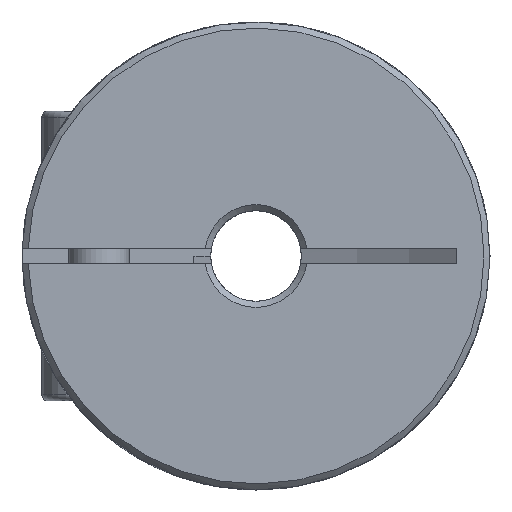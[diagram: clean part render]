
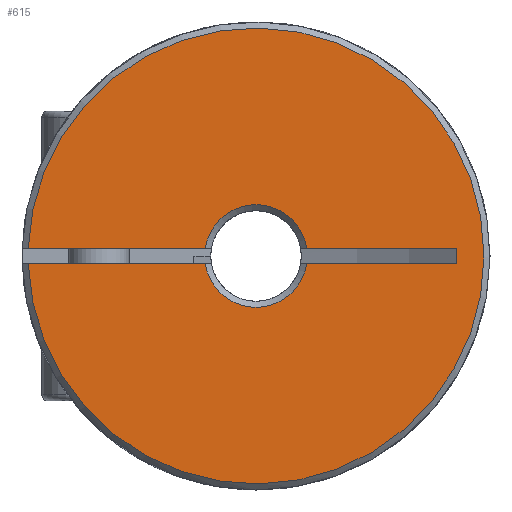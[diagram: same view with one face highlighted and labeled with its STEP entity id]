
A CAD part, left-side view. The second image highlights one B-rep face of the part: STEP entity #615.
In plain terms, the highlighted planar face has unit normal (-1, 0, 0).
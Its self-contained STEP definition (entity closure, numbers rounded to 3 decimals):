
#615 = ADVANCED_FACE( 'NONE', ( #1276 ), #1277, .F. );
#1276 = FACE_OUTER_BOUND( '', #1926, .T. );
#1277 = PLANE( '', #1927 );
#1926 = EDGE_LOOP( '', ( #3216, #3217, #3218, #3219, #3220, #3221, #3222, #3223 ) );
#1927 = AXIS2_PLACEMENT_3D( '', #3224, #3225, #3226 );
#3216 = ORIENTED_EDGE( '', *, *, #3390, .T. );
#3217 = ORIENTED_EDGE( '', *, *, #3788, .T. );
#3218 = ORIENTED_EDGE( '', *, *, #3817, .T. );
#3219 = ORIENTED_EDGE( '', *, *, #3628, .T. );
#3220 = ORIENTED_EDGE( '', *, *, #3532, .F. );
#3221 = ORIENTED_EDGE( '', *, *, #3609, .T. );
#3222 = ORIENTED_EDGE( '', *, *, #3430, .F. );
#3223 = ORIENTED_EDGE( '', *, *, #3555, .T. );
#3224 = CARTESIAN_POINT( '', ( 0., 1.5, 0. ) );
#3225 = DIRECTION( '', ( 1., 0., 0. ) );
#3226 = DIRECTION( '', ( 0., 1., 0. ) );
#3390 = EDGE_CURVE( 'NONE', #3922, #3920, #3923, .T. );
#3430 = EDGE_CURVE( 'NONE', #3987, #3988, #3989, .F. );
#3532 = EDGE_CURVE( 'NONE', #4156, #4158, #4159, .F. );
#3555 = EDGE_CURVE( 'NONE', #3987, #3922, #4195, .T. );
#3609 = EDGE_CURVE( 'NONE', #4156, #3988, #4281, .T. );
#3628 = EDGE_CURVE( 'NONE', #4306, #4158, #4307, .F. );
#3788 = EDGE_CURVE( 'NONE', #3920, #4527, #4529, .T. );
#3817 = EDGE_CURVE( 'NONE', #4527, #4306, #4566, .T. );
#3920 = VERTEX_POINT( 'NONE', #4680 );
#3922 = VERTEX_POINT( 'NONE', #4685 );
#3923 = LINE( '', #4686, #4687 );
#3987 = VERTEX_POINT( 'NONE', #4762 );
#3988 = VERTEX_POINT( 'NONE', #4763 );
#3989 = LINE( '', #4764, #4765 );
#4156 = VERTEX_POINT( 'NONE', #5062 );
#4158 = VERTEX_POINT( 'NONE', #5067 );
#4159 = LINE( '', #5068, #5069 );
#4195 = LINE( '', #5119, #5120 );
#4281 = CIRCLE( '', #5304, 1.7 );
#4306 = VERTEX_POINT( 'NONE', #5334 );
#4307 = CIRCLE( '', #5335, 7.55 );
#4527 = VERTEX_POINT( 'NONE', #5607 );
#4529 = CIRCLE( '', #5612, 1.7 );
#4566 = LINE( '', #5650, #5651 );
#4680 = CARTESIAN_POINT( '', ( 0., 1.682, 0.25 ) );
#4685 = CARTESIAN_POINT( '', ( 0., 6.624, 0.25 ) );
#4686 = CARTESIAN_POINT( '', ( 0., 1.5, 0.25 ) );
#4687 = VECTOR( '', #5767, 1000. );
#4762 = CARTESIAN_POINT( '', ( 0., 6.624, -0.25 ) );
#4763 = CARTESIAN_POINT( '', ( 0., 1.682, -0.25 ) );
#4764 = CARTESIAN_POINT( '', ( 0., -4.5, -0.25 ) );
#4765 = VECTOR( '', #5833, 1000. );
#5062 = CARTESIAN_POINT( '', ( 0., -1.682, -0.25 ) );
#5067 = CARTESIAN_POINT( '', ( 0., -7.546, -0.25 ) );
#5068 = CARTESIAN_POINT( '', ( 0., -4.5, -0.25 ) );
#5069 = VECTOR( '', #5996, 1000. );
#5119 = CARTESIAN_POINT( '', ( 0., 6.624, -0.25 ) );
#5120 = VECTOR( '', #6026, 1000. );
#5304 = AXIS2_PLACEMENT_3D( '', #6123, #6124, #6125 );
#5334 = CARTESIAN_POINT( '', ( 0., -7.546, 0.25 ) );
#5335 = AXIS2_PLACEMENT_3D( '', #6149, #6150, #6151 );
#5607 = CARTESIAN_POINT( '', ( 0., -1.682, 0.25 ) );
#5612 = AXIS2_PLACEMENT_3D( '', #6361, #6362, #6363 );
#5650 = CARTESIAN_POINT( '', ( 0., 1.5, 0.25 ) );
#5651 = VECTOR( '', #6404, 1000. );
#5767 = DIRECTION( '', ( 0., -1., 0. ) );
#5833 = DIRECTION( '', ( 0., 1., 0. ) );
#5996 = DIRECTION( '', ( 0., 1., 0. ) );
#6026 = DIRECTION( '', ( 0., 0., 1. ) );
#6123 = CARTESIAN_POINT( '', ( 0., 0., 0. ) );
#6124 = DIRECTION( '', ( 1., 0., 0. ) );
#6125 = DIRECTION( '', ( 0., 0., -1. ) );
#6149 = CARTESIAN_POINT( '', ( 0., 0., 0. ) );
#6150 = DIRECTION( '', ( 1., 0., 0. ) );
#6151 = DIRECTION( '', ( 0., 0., -1. ) );
#6361 = CARTESIAN_POINT( '', ( 0., 0., 0. ) );
#6362 = DIRECTION( '', ( 1., 0., 0. ) );
#6363 = DIRECTION( '', ( 0., 0., -1. ) );
#6404 = DIRECTION( '', ( 0., -1., 0. ) );
